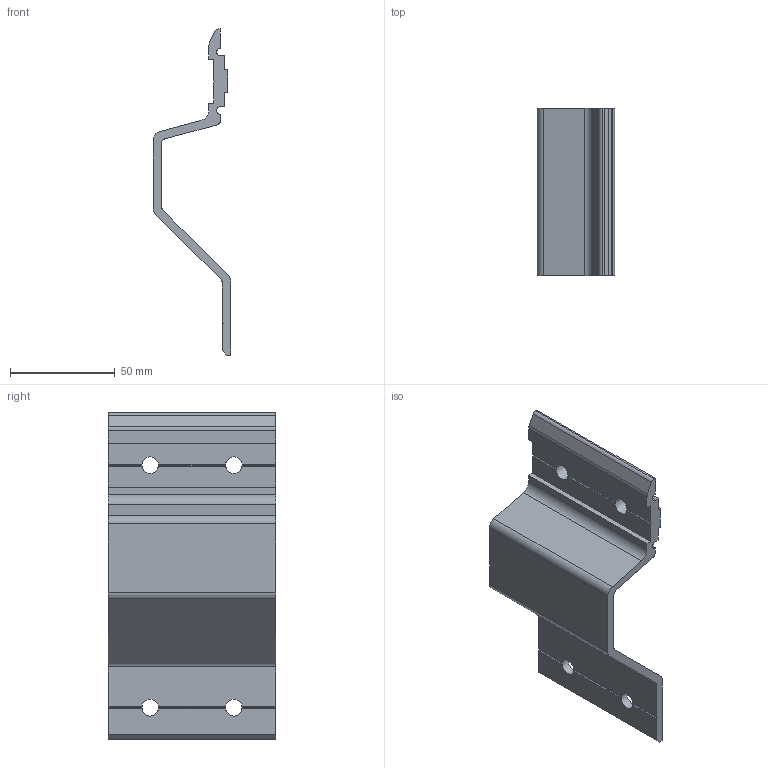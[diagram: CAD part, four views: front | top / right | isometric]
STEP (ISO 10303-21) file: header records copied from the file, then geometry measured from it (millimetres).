
FILE_DESCRIPTION((''),'2;1');
FILE_NAME('X:\Ritarkiv\100-1230.stp','2009-05-26T09:55:04',('marcus'),(''),'Autodesk Inventor 2009','Autodesk Inventor 2009','');
FILE_SCHEMA(('AUTOMOTIVE_DESIGN { 1 0 10303 214 1 1 1 1 }'));
Length unit declared in the file: millimetre
Products named in the file (2): Assembly4; 100-1230
Assembly tree (1 placements, depth 2):
  Assembly4
    100-1230
Bounding box: 37 x 80 x 156 mm (x, y, z)
Volume: 64270.2 mm3; surface area: 33729.6 mm2
Topology: 1 solids, 1 shells, 58 faces, 180 edges, 120 vertices
Faces by surface type: plane 42, cylinder 12, bspline 4
Entity records: 2080 total; most frequent: CARTESIAN_POINT 417, ORIENTED_EDGE 344, DIRECTION 338, EDGE_CURVE 172, VECTOR 120, LINE 120, VERTEX_POINT 116, AXIS2_PLACEMENT_3D 109
